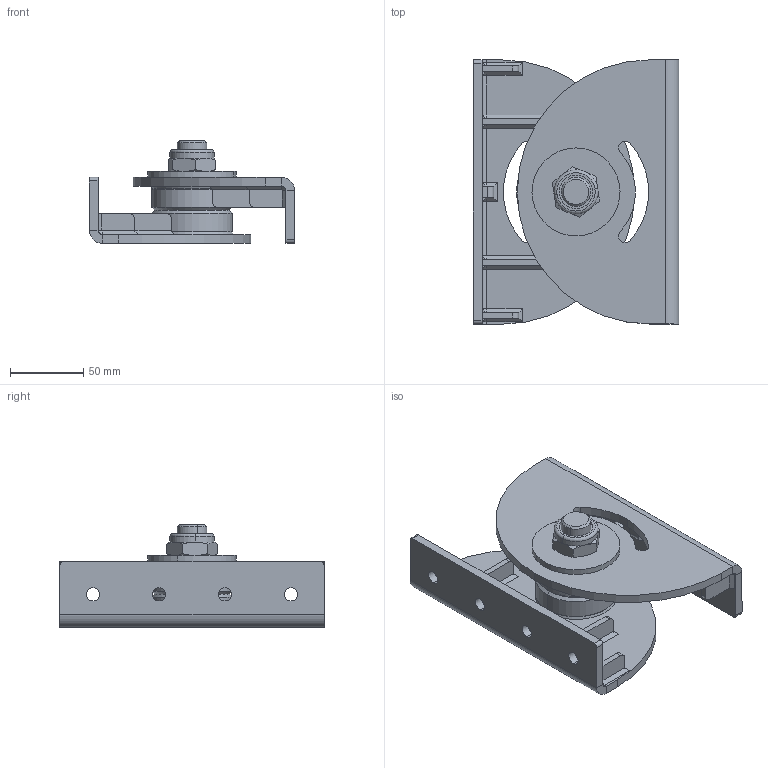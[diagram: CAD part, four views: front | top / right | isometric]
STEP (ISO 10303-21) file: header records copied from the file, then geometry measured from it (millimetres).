
FILE_DESCRIPTION (( 'STEP AP203' ), '1' );
FILE_NAME ('084.313.006.STEP', '2015-06-24T14:14:52', ( '' ), ( '' ), 'SwSTEP 2.0', 'SolidWorks 2012', '' );
FILE_SCHEMA (( 'CONFIG_CONTROL_DESIGN' ));
Length unit declared in the file: millimetre
Products named in the file (5): socket countersunk head screw_iso_ISO 10642 - M20 x 70 --- 70N; torque nut 08_iso_ISO 10511-M20-N; plain washer large grade ac_iso_Washer ISO 7093 - 12; 084.313.006; 084.313.006L_Default<A macchina>
Assembly tree (5 placements, depth 2):
  084.313.006
    084.313.006L_Default<A macchina>  x2
    socket countersunk head screw_iso_ISO 10642 - M20 x 70 --- 70N
    plain washer large grade ac_iso_Washer ISO 7093 - 12
    torque nut 08_iso_ISO 10511-M20-N
Bounding box: 140 x 180 x 70 mm (x, y, z)
Volume: 380696.3 mm3; surface area: 150146.1 mm2
Topology: 29 solids, 29 shells, 405 faces, 916 edges, 567 vertices
Faces by surface type: plane 243, cylinder 94, cone 64, torus 4
Entity records: 7108 total; most frequent: CARTESIAN_POINT 1243, DIRECTION 1149, ORIENTED_EDGE 1050, EDGE_CURVE 525, AXIS2_PLACEMENT_3D 405, VECTOR 339, LINE 339, VERTEX_POINT 323
